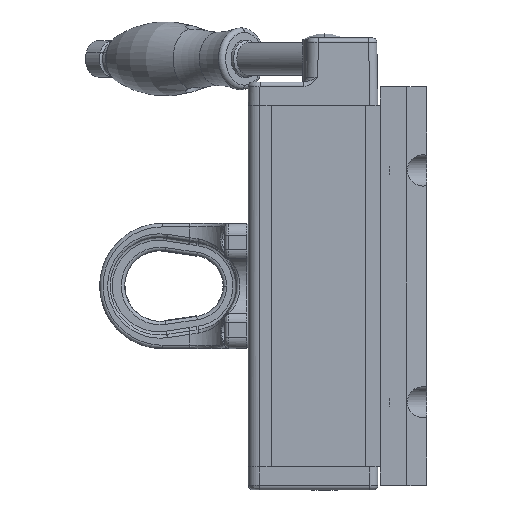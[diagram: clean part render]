
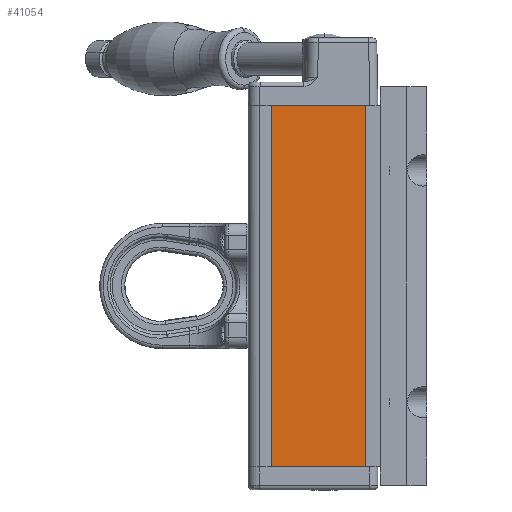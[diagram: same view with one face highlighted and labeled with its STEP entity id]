
A CAD part, left-side view. The second image highlights one B-rep face of the part: STEP entity #41054.
In plain terms, the highlighted planar face has unit normal (-1, 0, 0).
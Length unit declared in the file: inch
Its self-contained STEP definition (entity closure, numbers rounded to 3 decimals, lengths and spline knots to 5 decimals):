
#5743 = DIRECTION ( 'NONE',  ( 0., 0., -1. ) ) ;
#8696 = VERTEX_POINT ( 'NONE', #23021 ) ;
#9218 = EDGE_CURVE ( 'NONE', #27988, #65973, #48039, .T. ) ;
#10242 = FACE_OUTER_BOUND ( 'NONE', #60618, .T. ) ;
#12001 = DIRECTION ( 'NONE',  ( 0., -1., 0. ) ) ;
#12217 = CARTESIAN_POINT ( 'NONE',  ( -1.20079, 0.90551, 3.07087 ) ) ;
#14662 = DIRECTION ( 'NONE',  ( 0., 1., 0. ) ) ;
#18456 = ORIENTED_EDGE ( 'NONE', *, *, #57618, .T. ) ;
#19137 = CARTESIAN_POINT ( 'NONE',  ( -1.20079, -0.72835, 3.07087 ) ) ;
#20415 = LINE ( 'NONE', #47423, #49304 ) ;
#20778 = VECTOR ( 'NONE', #12001, 39.37008 ) ;
#23021 = CARTESIAN_POINT ( 'NONE',  ( -1.20079, 0.90551, -3.07087 ) ) ;
#23977 = ORIENTED_EDGE ( 'NONE', *, *, #9218, .F. ) ;
#25081 = LINE ( 'NONE', #36409, #40331 ) ;
#27988 = VERTEX_POINT ( 'NONE', #66197 ) ;
#34903 = LINE ( 'NONE', #49296, #43800 ) ;
#36409 = CARTESIAN_POINT ( 'NONE',  ( -1.20079, -0.72835, 3.07087 ) ) ;
#36986 = VERTEX_POINT ( 'NONE', #58939 ) ;
#40331 = VECTOR ( 'NONE', #5743, 39.37008 ) ;
#40424 = CARTESIAN_POINT ( 'NONE',  ( -1.20079, 0.90551, 3.07087 ) ) ;
#41054 = ADVANCED_FACE ( 'NONE', ( #10242 ), #60634, .F. ) ;
#43800 = VECTOR ( 'NONE', #55349, 39.37008 ) ;
#47151 = ORIENTED_EDGE ( 'NONE', *, *, #65594, .F. ) ;
#47423 = CARTESIAN_POINT ( 'NONE',  ( -1.20079, 0.90551, 3.07087 ) ) ;
#48039 = LINE ( 'NONE', #12217, #20778 ) ;
#49296 = CARTESIAN_POINT ( 'NONE',  ( -1.20079, 0.90551, -3.07087 ) ) ;
#49304 = VECTOR ( 'NONE', #58427, 39.37008 ) ;
#50307 = DIRECTION ( 'NONE',  ( 1., 0., 0. ) ) ;
#55182 = EDGE_CURVE ( 'NONE', #8696, #36986, #34903, .T. ) ;
#55349 = DIRECTION ( 'NONE',  ( 0., -1., 0. ) ) ;
#56918 = AXIS2_PLACEMENT_3D ( 'NONE', #40424, #50307, #14662 ) ;
#57618 = EDGE_CURVE ( 'NONE', #27988, #8696, #20415, .T. ) ;
#58427 = DIRECTION ( 'NONE',  ( 0., 0., -1. ) ) ;
#58939 = CARTESIAN_POINT ( 'NONE',  ( -1.20079, -0.72835, -3.07087 ) ) ;
#59548 = ORIENTED_EDGE ( 'NONE', *, *, #55182, .T. ) ;
#60618 = EDGE_LOOP ( 'NONE', ( #59548, #47151, #23977, #18456 ) ) ;
#60634 = PLANE ( 'NONE',  #56918 ) ;
#65594 = EDGE_CURVE ( 'NONE', #65973, #36986, #25081, .T. ) ;
#65973 = VERTEX_POINT ( 'NONE', #19137 ) ;
#66197 = CARTESIAN_POINT ( 'NONE',  ( -1.20079, 0.90551, 3.07087 ) ) ;
